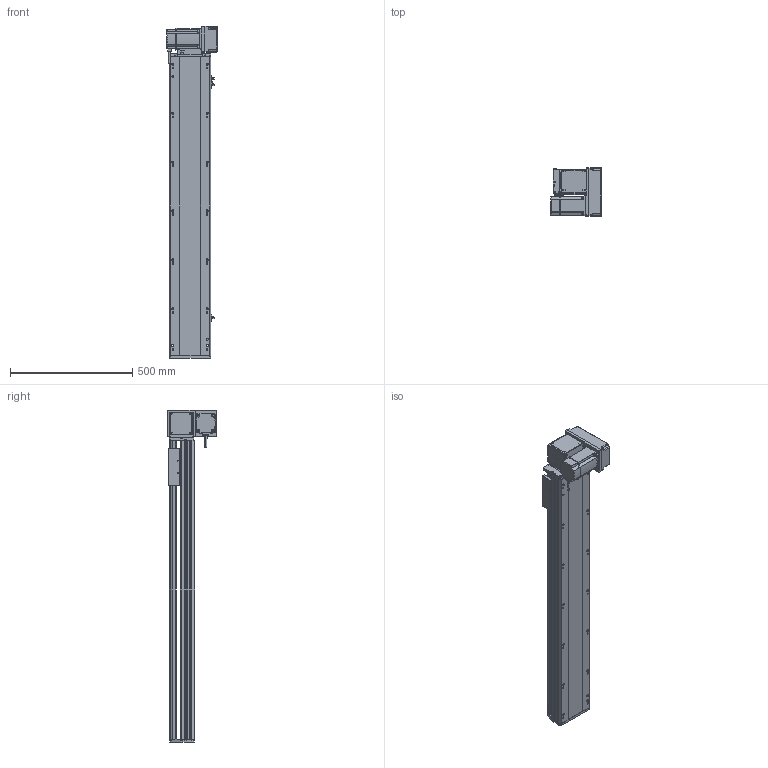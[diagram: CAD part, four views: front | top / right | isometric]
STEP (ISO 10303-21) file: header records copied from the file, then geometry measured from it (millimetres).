
FILE_DESCRIPTION (( 'STEP AP214' ), '1' );
FILE_NAME ('RTB17S-XX-950-RM-M75-C4.STEP', '2025-12-12T02:05:04', ( '' ), ( '' ), 'SwSTEP 2.0', 'SolidWorks 2018', '' );
FILE_SCHEMA (( 'AUTOMOTIVE_DESIGN' ));
Length unit declared in the file: millimetre
Products named in the file (15): RTH13-BL-012覜茼え俋离^RTB17S-賑釱_RTB17S-XX-XX-RM-M75-C4; RTB22S-GY-017P^RTB17S-RM-々湍釱蚾饜-750W_RTB17S-XX-XX-RM-M75-C4; RTB17-R-011菁釱^RTB17S-XX-XX-RM-M75-C4; 750W萇儂^RTB17S-XX-XX-RM-M75-C4; RTB17S-L-014-T20-P75--々湍釱^RTB17S-RM-々湍釱蚾饜-750W_RTB17S-XX-XX-RM-M75-C4; RTB17S-RM-々湍釱蚾饜-750W^RTB17S-XX-XX-RM-M75-C4; RTB22S-GY-008-M75--萇儂啣^RTB17S-RM-々湍釱蚾饜-750W_RTB17S-XX-XX-RM-M75-C4; RTB17S-L-001-耜醱啣^RTB17S-XX-XX-RM-M75-C4; RTB17S-L-007奻裔^RTB17S-XX-XX-RM-M75-C4; RTB17S-賑釱^RTB17S-XX-XX-RM-M75-C4; RTB17S-L-004-賑釱^RTB17S-賑釱_RTB17S-XX-XX-RM-M75-C4; EE672^RTB17S-XX-XX-RM-M75-C4; RTB22S-GY-005P^RTB17S-RM-々湍釱蚾饜-750W_RTB17S-XX-XX-RM-M75-C4; RTB22S-GY-018P^RTB17S-RM-々湍釱蚾饜-750W_RTB17S-XX-XX-RM-M75-C4; RTB17S-XX-950-RM-M75-C4
Assembly tree (17 placements, depth 3):
  RTB17S-XX-950-RM-M75-C4
    RTB17-R-011菁釱^RTB17S-XX-XX-RM-M75-C4
    EE672^RTB17S-XX-XX-RM-M75-C4  x3
    RTB17S-L-001-耜醱啣^RTB17S-XX-XX-RM-M75-C4
    RTB17S-賑釱^RTB17S-XX-XX-RM-M75-C4
      RTB17S-L-004-賑釱^RTB17S-賑釱_RTB17S-XX-XX-RM-M75-C4
      RTH13-BL-012覜茼え俋离^RTB17S-賑釱_RTB17S-XX-XX-RM-M75-C4
    RTB17S-L-007奻裔^RTB17S-XX-XX-RM-M75-C4
    750W萇儂^RTB17S-XX-XX-RM-M75-C4
    RTB17S-RM-々湍釱蚾饜-750W^RTB17S-XX-XX-RM-M75-C4
      RTB17S-L-014-T20-P75--々湍釱^RTB17S-RM-々湍釱蚾饜-750W_RTB17S-XX-XX-RM-M75-C4
      RTB22S-GY-005P^RTB17S-RM-々湍釱蚾饜-750W_RTB17S-XX-XX-RM-M75-C4
      RTB22S-GY-017P^RTB17S-RM-々湍釱蚾饜-750W_RTB17S-XX-XX-RM-M75-C4  x2
      RTB22S-GY-008-M75--萇儂啣^RTB17S-RM-々湍釱蚾饜-750W_RTB17S-XX-XX-RM-M75-C4
      RTB22S-GY-018P^RTB17S-RM-々湍釱蚾饜-750W_RTB17S-XX-XX-RM-M75-C4
Bounding box: 207.4 x 200 x 1357.5 mm (x, y, z)
Volume: 11888581.1 mm3; surface area: 2009502.6 mm2
Topology: 17 solids, 17 shells, 2089 faces, 5782 edges, 3734 vertices
Faces by surface type: plane 970, cylinder 703, bspline 294, cone 110, sphere 8, torus 4
Entity records: 58102 total; most frequent: CARTESIAN_POINT 17046, ORIENTED_EDGE 8408, DIRECTION 7862, EDGE_CURVE 4204, AXIS2_PLACEMENT_3D 2754, VERTEX_POINT 2738, LINE 2354, VECTOR 2354
